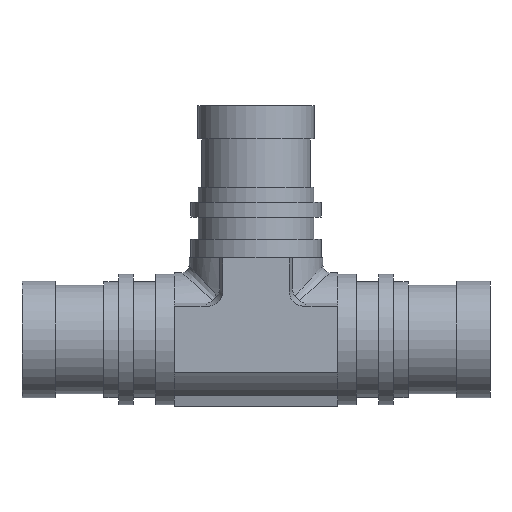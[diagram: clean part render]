
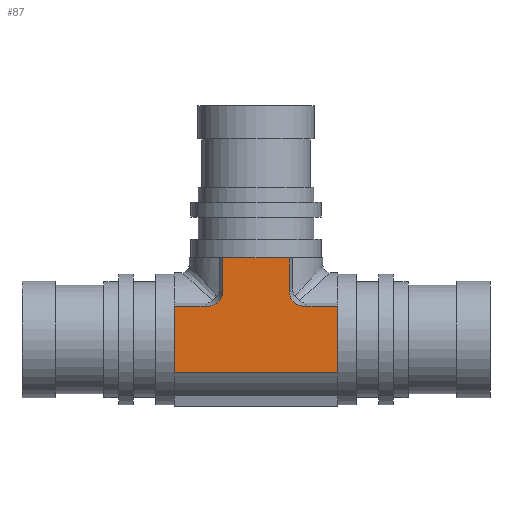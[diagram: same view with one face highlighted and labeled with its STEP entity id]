
A CAD part, front view. The second image highlights one B-rep face of the part: STEP entity #87.
In plain terms, the highlighted planar face has unit normal (0, -1, 0).
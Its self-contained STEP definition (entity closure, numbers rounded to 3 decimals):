
#87 = ADVANCED_FACE( '', ( #179 ), #180, .F. );
#179 = FACE_OUTER_BOUND( '', #579, .T. );
#180 = PLANE( '', #580 );
#579 = EDGE_LOOP( '', ( #1038, #1039, #1040, #1041, #1042, #1043, #1044, #1045, #1046, #1047 ) );
#580 = AXIS2_PLACEMENT_3D( '', #1048, #1049, #1050 );
#1038 = ORIENTED_EDGE( '', *, *, #1469, .T. );
#1039 = ORIENTED_EDGE( '', *, *, #1439, .T. );
#1040 = ORIENTED_EDGE( '', *, *, #1471, .T. );
#1041 = ORIENTED_EDGE( '', *, *, #1472, .T. );
#1042 = ORIENTED_EDGE( '', *, *, #1473, .F. );
#1043 = ORIENTED_EDGE( '', *, *, #1474, .T. );
#1044 = ORIENTED_EDGE( '', *, *, #1475, .T. );
#1045 = ORIENTED_EDGE( '', *, *, #1476, .T. );
#1046 = ORIENTED_EDGE( '', *, *, #1477, .F. );
#1047 = ORIENTED_EDGE( '', *, *, #1478, .F. );
#1048 = CARTESIAN_POINT( '', ( 11., -9., 4.5 ) );
#1049 = DIRECTION( '', ( 0., 1., 0. ) );
#1050 = DIRECTION( '', ( 0., 0., 1. ) );
#1439 = EDGE_CURVE( '', #1581, #1582, #1583, .T. );
#1469 = EDGE_CURVE( '', #1636, #1581, #1637, .T. );
#1471 = EDGE_CURVE( '', #1582, #1639, #1640, .T. );
#1472 = EDGE_CURVE( '', #1639, #1641, #1642, .T. );
#1473 = EDGE_CURVE( '', #1643, #1641, #1644, .T. );
#1474 = EDGE_CURVE( '', #1643, #1645, #1646, .T. );
#1475 = EDGE_CURVE( '', #1645, #1647, #1648, .T. );
#1476 = EDGE_CURVE( '', #1647, #1649, #1650, .T. );
#1477 = EDGE_CURVE( '', #1651, #1649, #1652, .T. );
#1478 = EDGE_CURVE( '', #1636, #1651, #1653, .T. );
#1581 = VERTEX_POINT( '', #1831 );
#1582 = VERTEX_POINT( '', #1832 );
#1583 = ELLIPSE( '', #1833, 2.139, 2. );
#1636 = VERTEX_POINT( '', #1999 );
#1637 = LINE( '', #2000, #2001 );
#1639 = VERTEX_POINT( '', #2004 );
#1640 = LINE( '', #2005, #2006 );
#1641 = VERTEX_POINT( '', #2007 );
#1642 = LINE( '', #2008, #2009 );
#1643 = VERTEX_POINT( '', #2010 );
#1644 = LINE( '', #2011, #2012 );
#1645 = VERTEX_POINT( '', #2013 );
#1646 = ELLIPSE( '', #2014, 2.139, 2. );
#1647 = VERTEX_POINT( '', #2015 );
#1648 = LINE( '', #2016, #2017 );
#1649 = VERTEX_POINT( '', #2018 );
#1650 = LINE( '', #2019, #2020 );
#1651 = VERTEX_POINT( '', #2021 );
#1652 = LINE( '', #2022, #2023 );
#1653 = LINE( '', #2024, #2025 );
#1831 = CARTESIAN_POINT( '', ( 6.432, -9., 4.5 ) );
#1832 = CARTESIAN_POINT( '', ( 4.5, -9., 6.432 ) );
#1833 = AXIS2_PLACEMENT_3D( '', #2242, #2243, #2244 );
#1999 = CARTESIAN_POINT( '', ( 11., -9., 4.5 ) );
#2000 = CARTESIAN_POINT( '', ( 11., -9., 4.5 ) );
#2001 = VECTOR( '', #2283, 1000. );
#2004 = CARTESIAN_POINT( '', ( 4.5, -9., 11. ) );
#2005 = CARTESIAN_POINT( '', ( 4.5, -9., 0. ) );
#2006 = VECTOR( '', #2285, 1000. );
#2007 = CARTESIAN_POINT( '', ( -4.5, -9., 11. ) );
#2008 = CARTESIAN_POINT( '', ( 4.5, -9., 11. ) );
#2009 = VECTOR( '', #2286, 1000. );
#2010 = CARTESIAN_POINT( '', ( -4.5, -9., 6.432 ) );
#2011 = CARTESIAN_POINT( '', ( -4.5, -9., 0. ) );
#2012 = VECTOR( '', #2287, 1000. );
#2013 = CARTESIAN_POINT( '', ( -6.432, -9., 4.5 ) );
#2014 = AXIS2_PLACEMENT_3D( '', #2288, #2289, #2290 );
#2015 = CARTESIAN_POINT( '', ( -11., -9., 4.5 ) );
#2016 = CARTESIAN_POINT( '', ( 11., -9., 4.5 ) );
#2017 = VECTOR( '', #2291, 1000. );
#2018 = CARTESIAN_POINT( '', ( -11., -9., -4.5 ) );
#2019 = CARTESIAN_POINT( '', ( -11., -9., 4.5 ) );
#2020 = VECTOR( '', #2292, 1000. );
#2021 = CARTESIAN_POINT( '', ( 11., -9., -4.5 ) );
#2022 = CARTESIAN_POINT( '', ( 11., -9., -4.5 ) );
#2023 = VECTOR( '', #2293, 1000. );
#2024 = CARTESIAN_POINT( '', ( 11., -9., 4.5 ) );
#2025 = VECTOR( '', #2294, 1000. );
#2242 = CARTESIAN_POINT( '', ( 6.571, -9., 6.571 ) );
#2243 = DIRECTION( '', ( 0., 1., 0. ) );
#2244 = DIRECTION( '', ( -0.707, 0., -0.707 ) );
#2283 = DIRECTION( '', ( -1., 0., 0. ) );
#2285 = DIRECTION( '', ( 0., 0., 1. ) );
#2286 = DIRECTION( '', ( -1., 0., 0. ) );
#2287 = DIRECTION( '', ( 0., 0., 1. ) );
#2288 = CARTESIAN_POINT( '', ( -6.571, -9., 6.571 ) );
#2289 = DIRECTION( '', ( 0., 1., 0. ) );
#2290 = DIRECTION( '', ( -0.707, 0., 0.707 ) );
#2291 = DIRECTION( '', ( -1., 0., 0. ) );
#2292 = DIRECTION( '', ( 0., 0., -1. ) );
#2293 = DIRECTION( '', ( -1., 0., 0. ) );
#2294 = DIRECTION( '', ( 0., 0., -1. ) );
